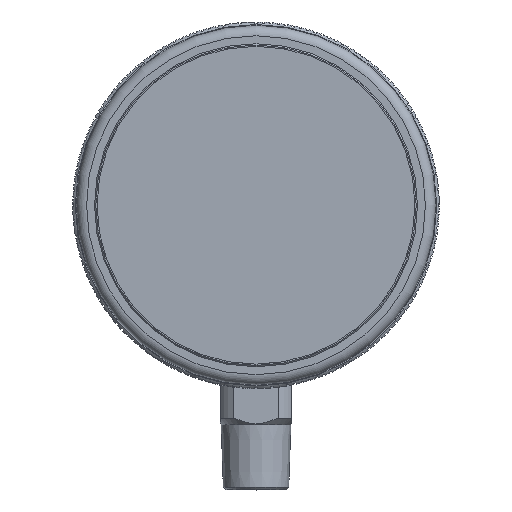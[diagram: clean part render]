
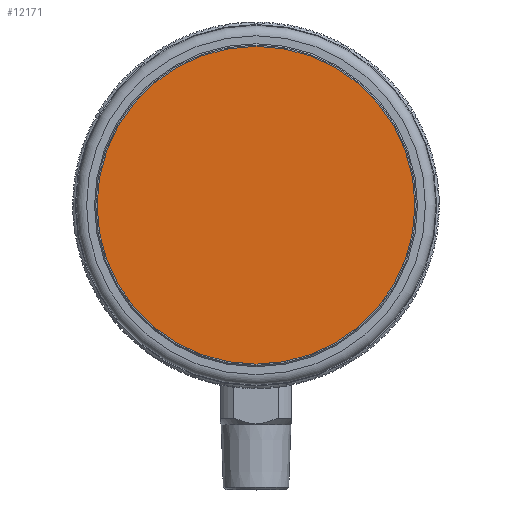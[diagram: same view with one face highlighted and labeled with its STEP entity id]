
A CAD part, top view. The second image highlights one B-rep face of the part: STEP entity #12171.
In plain terms, the highlighted planar face has unit normal (0, 0, 1) as drawn and (-1, 0, 0) by its records, which use the part's own axes.
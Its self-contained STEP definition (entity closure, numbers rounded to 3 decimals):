
#624=PLANE('',#13139);
#4030=FACE_OUTER_BOUND('',#4642,.T.);
#4642=EDGE_LOOP('',(#11480));
#4966=CIRCLE('',#13140,30.999);
#6151=VERTEX_POINT('',#20177);
#7933=EDGE_CURVE('',#6151,#6151,#4966,.T.);
#11480=ORIENTED_EDGE('',*,*,#7933,.F.);
#12171=ADVANCED_FACE('',(#4030),#624,.T.);
#13139=AXIS2_PLACEMENT_3D('',#20176,#16269,#16270);
#13140=AXIS2_PLACEMENT_3D('',#20178,#16271,#16272);
#16269=DIRECTION('center_axis',(-1.,0.,0.));
#16270=DIRECTION('ref_axis',(0.,0.,1.));
#16271=DIRECTION('center_axis',(1.,0.,0.));
#16272=DIRECTION('ref_axis',(0.,1.,0.));
#20176=CARTESIAN_POINT('Origin',(167.935,124.308,0.));
#20177=CARTESIAN_POINT('',(167.935,77.809,0.));
#20178=CARTESIAN_POINT('Origin',(167.935,108.808,0.));
